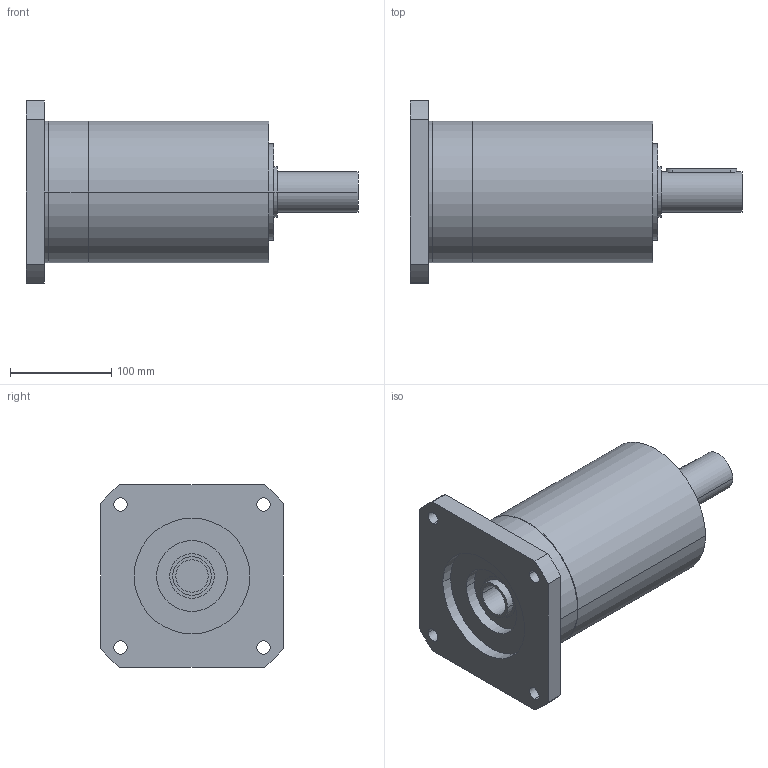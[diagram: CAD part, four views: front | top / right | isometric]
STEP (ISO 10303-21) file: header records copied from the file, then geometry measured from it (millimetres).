
FILE_DESCRIPTION(('CoCreate Modeling STEP Export'),'2;1');
FILE_NAME('GPR150_ig-9-12-16-20-28-35_40_B14_32_P09.stp','2014-08-19T17:04:02',(''),(''),'CoCreate Modeling STEP processor for AP214 (Solid Model)','CoCreate Modeling 16.00C 25-Feb-2009 (C) Parametric Technology GmbH','');
FILE_SCHEMA(('AUTOMOTIVE_DESIGN { 1 0 10303 214 1 1 1 1 }'));
Length unit declared in the file: millimetre
Products named in the file (2): GPR150_ig-9-12-16-20-28-35_40_B14_32_P09
Assembly tree (1 placements, depth 2):
  GPR150_ig-9-12-16-20-28-35_40_B14_32_P09
    GPR150_ig-9-12-16-20-28-35_40_B14_32_P09
Bounding box: 328 x 180 x 180 mm (x, y, z)
Volume: 3901147.4 mm3; surface area: 208338.1 mm2
Topology: 1 solids, 1 shells, 76 faces, 202 edges, 142 vertices
Faces by surface type: cylinder 46, plane 24, cone 6
Entity records: 2103 total; most frequent: CARTESIAN_POINT 406, ORIENTED_EDGE 400, DIRECTION 282, EDGE_CURVE 200, VERTEX_POINT 142, AXIS2_PLACEMENT_3D 106, EDGE_LOOP 100, FACE_OUTER_BOUND 76
